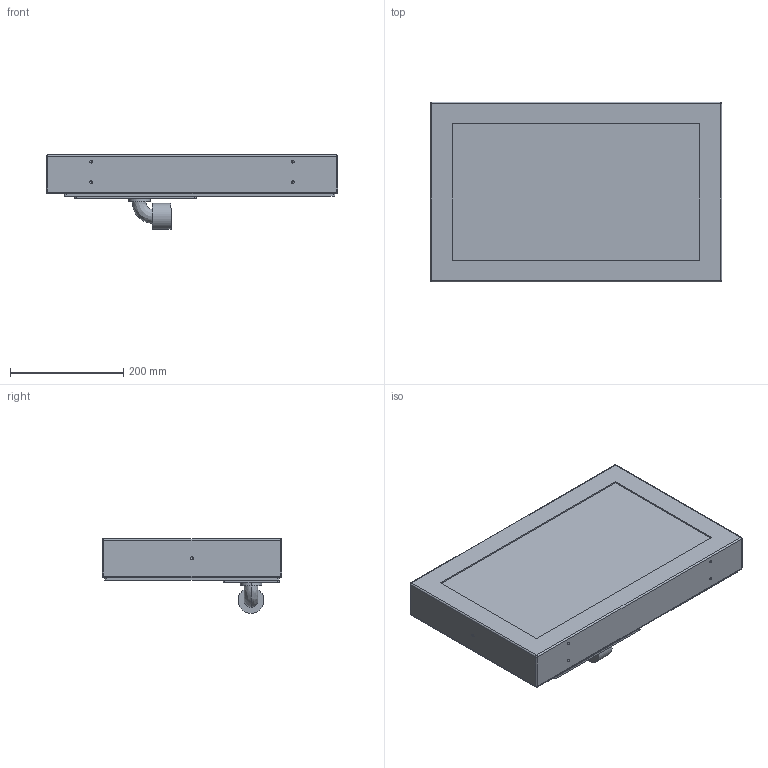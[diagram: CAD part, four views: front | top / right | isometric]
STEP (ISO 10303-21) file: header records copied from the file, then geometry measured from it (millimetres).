
FILE_DESCRIPTION (( 'STEP AP214' ), '1' );
FILE_NAME ('19.5 inch Universal Mount Monitor, HIS-UM19.5-xxxA, with KVM2EXTand CP-CON.STEP', '2019-11-18T20:49:25', ( '' ), ( '' ), 'SwSTEP 2.0', 'SolidWorks 2017', '' );
FILE_SCHEMA (( 'AUTOMOTIVE_DESIGN' ));
Length unit declared in the file: inch
Products named in the file (1): 19.5 inch Universal Mount Monitor, HIS-UM19.5-xxxA, with KVM2EXTand CP-CON
Bounding box: 514.35 x 317.5 x 131.78 mm (x, y, z)
Volume: 11795341.8 mm3; surface area: 463569.5 mm2
Topology: 1 solids, 1 shells, 103 faces, 246 edges, 134 vertices
Faces by surface type: cylinder 44, plane 29, cone 20, sphere 8, bspline 2
Entity records: 3657 total; most frequent: CARTESIAN_POINT 516, DIRECTION 512, ORIENTED_EDGE 436, EDGE_CURVE 218, AXIS2_PLACEMENT_3D 194, VERTEX_POINT 134, VECTOR 124, LINE 124
